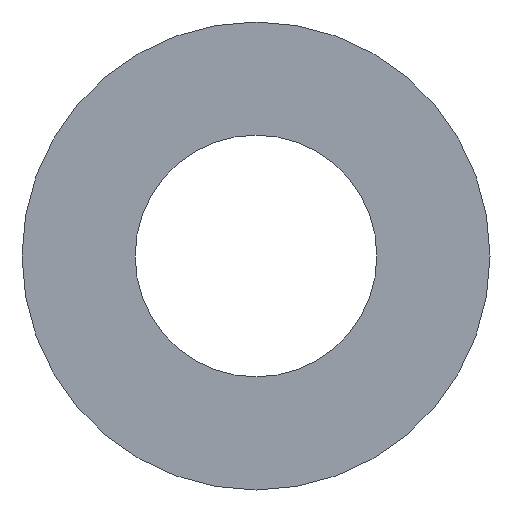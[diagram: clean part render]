
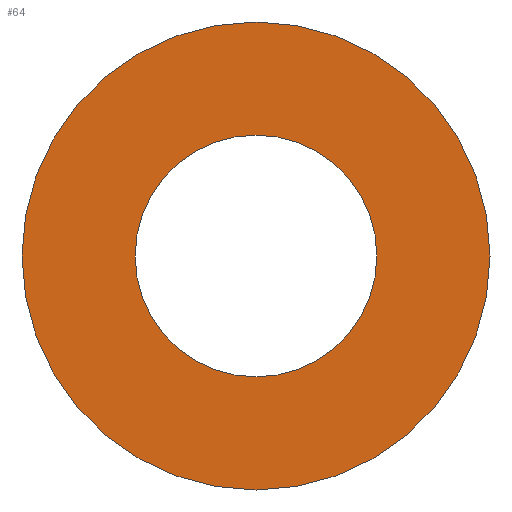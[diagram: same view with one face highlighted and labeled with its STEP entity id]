
A CAD part, front view. The second image highlights one B-rep face of the part: STEP entity #64.
In plain terms, the highlighted planar face has unit normal (0, -1, 0).
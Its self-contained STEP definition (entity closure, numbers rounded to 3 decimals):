
#16=FACE_BOUND('',#28,.T.);
#18=PLANE('',#95);
#22=FACE_OUTER_BOUND('',#27,.T.);
#27=EDGE_LOOP('',(#57));
#28=EDGE_LOOP('',(#58));
#34=CIRCLE('',#90,3.1);
#36=CIRCLE('',#93,6.);
#38=VERTEX_POINT('',#120);
#40=VERTEX_POINT('',#126);
#43=EDGE_CURVE('',#38,#38,#34,.T.);
#46=EDGE_CURVE('',#40,#40,#36,.T.);
#57=ORIENTED_EDGE('',*,*,#46,.F.);
#58=ORIENTED_EDGE('',*,*,#43,.F.);
#64=ADVANCED_FACE('',(#22,#16),#18,.F.);
#90=AXIS2_PLACEMENT_3D('',#122,#103,#104);
#93=AXIS2_PLACEMENT_3D('',#128,#110,#111);
#95=AXIS2_PLACEMENT_3D('',#130,#114,#115);
#103=DIRECTION('center_axis',(0.,-1.,0.));
#104=DIRECTION('ref_axis',(1.,0.,0.));
#110=DIRECTION('center_axis',(0.,1.,0.));
#111=DIRECTION('ref_axis',(-1.,0.,0.));
#114=DIRECTION('center_axis',(0.,1.,0.));
#115=DIRECTION('ref_axis',(0.,0.,1.));
#120=CARTESIAN_POINT('',(-3.1,0.,0.));
#122=CARTESIAN_POINT('Origin',(0.,0.,0.));
#126=CARTESIAN_POINT('',(6.,0.,0.));
#128=CARTESIAN_POINT('Origin',(0.,0.,0.));
#130=CARTESIAN_POINT('Origin',(0.,0.,0.));
